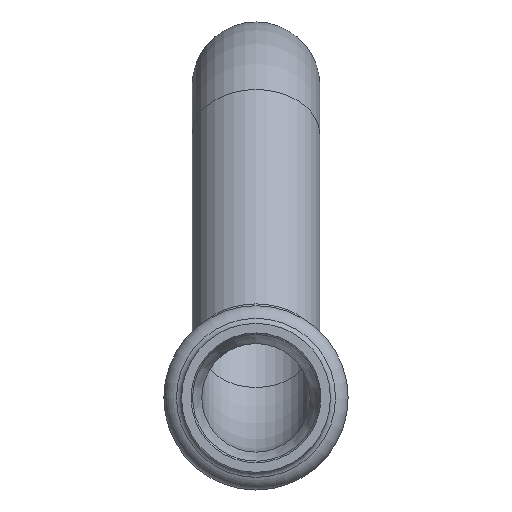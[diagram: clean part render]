
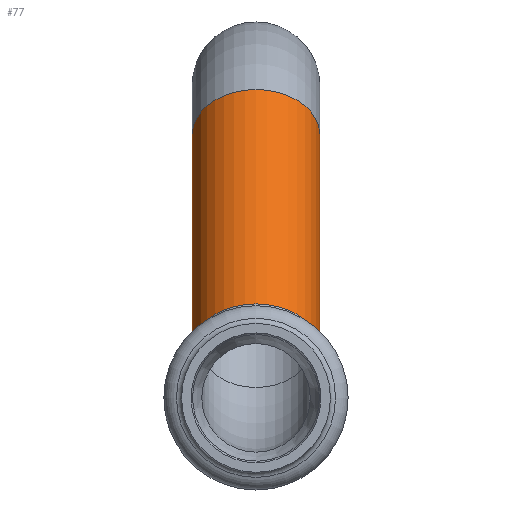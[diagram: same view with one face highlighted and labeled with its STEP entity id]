
A CAD part, front view. The second image highlights one B-rep face of the part: STEP entity #77.
In plain terms, the highlighted cylindrical face has radius 9 mm (diameter 18 mm), a full revolution.
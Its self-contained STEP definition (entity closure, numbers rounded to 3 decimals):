
#77=ADVANCED_FACE('',(#290,#292),#294,.T.);
#290=FACE_OUTER_BOUND('',#291,.T.);
#291=EDGE_LOOP('',(#391));
#292=FACE_OUTER_BOUND('',#293,.T.);
#293=EDGE_LOOP('',(#392));
#294=CYLINDRICAL_SURFACE('',#295,9.);
#295=AXIS2_PLACEMENT_3D('',#296,#297,#298);
#296=CARTESIAN_POINT('',(0.,56.883,6.883));
#297=DIRECTION('',(0.,0.707,0.707));
#298=DIRECTION('',(-1.,0.,0.));
#391=ORIENTED_EDGE('',*,*,#447,.F.);
#392=ORIENTED_EDGE('',*,*,#445,.T.);
#445=EDGE_CURVE('',#511,#511,#512,.T.);
#447=EDGE_CURVE('',#515,#515,#516,.T.);
#511=VERTEX_POINT('',#657);
#512=CIRCLE('',#658,9.);
#515=VERTEX_POINT('',#667);
#516=CIRCLE('',#668,9.);
#657=CARTESIAN_POINT('',(-9.,56.883,6.883));
#658=AXIS2_PLACEMENT_3D('',#659,#660,#661);
#659=CARTESIAN_POINT('',(0.,56.883,6.883));
#660=DIRECTION('',(0.,0.707,0.707));
#661=DIRECTION('',(-1.,0.,0.));
#667=CARTESIAN_POINT('',(-9.,87.119,37.119));
#668=AXIS2_PLACEMENT_3D('',#669,#670,#671);
#669=CARTESIAN_POINT('',(0.,87.119,37.119));
#670=DIRECTION('',(0.,0.707,0.707));
#671=DIRECTION('',(-1.,0.,0.));
